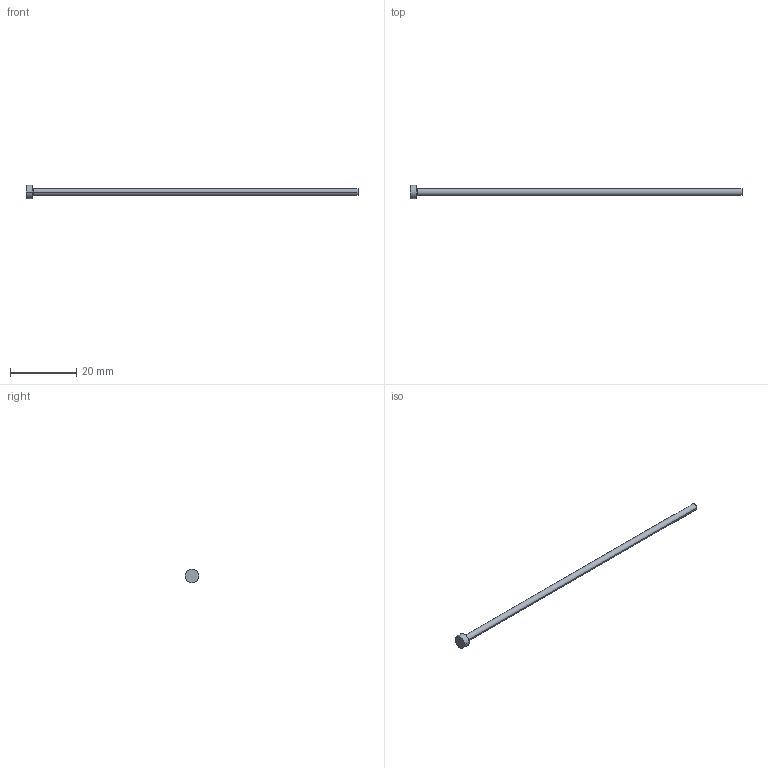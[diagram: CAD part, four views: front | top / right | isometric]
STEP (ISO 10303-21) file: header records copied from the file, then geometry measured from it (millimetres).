
FILE_DESCRIPTION (( 'STEP AP214' ), '1' );
FILE_NAME ('A-2x100.STEP', '2020-05-28T17:23:30', ( 'August' ), ( '' ), 'SwSTEP 2.0', 'SolidWorks 2018', '' );
FILE_SCHEMA (( 'AUTOMOTIVE_DESIGN' ));
Length unit declared in the file: millimetre
Products named in the file (1): A-2x100
Bounding box: 100 x 4 x 4 mm (x, y, z)
Volume: 333.1 mm3; surface area: 665.5 mm2
Topology: 1 solids, 1 shells, 9 faces, 16 edges, 10 vertices
Faces by surface type: cylinder 4, plane 3, torus 2
Entity records: 260 total; most frequent: DIRECTION 48, CARTESIAN_POINT 36, ORIENTED_EDGE 32, AXIS2_PLACEMENT_3D 22, EDGE_CURVE 16, CIRCLE 12, EDGE_LOOP 10, VERTEX_POINT 10
